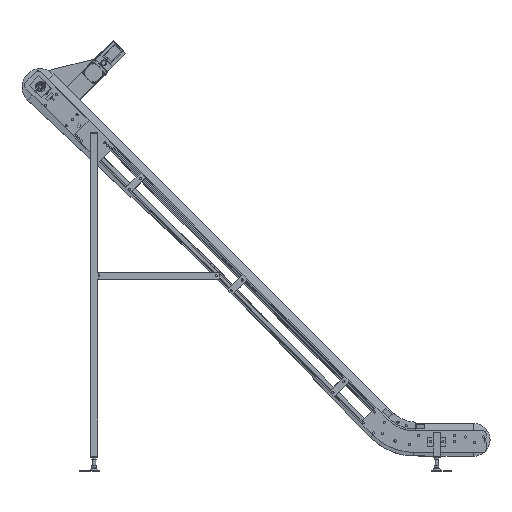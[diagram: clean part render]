
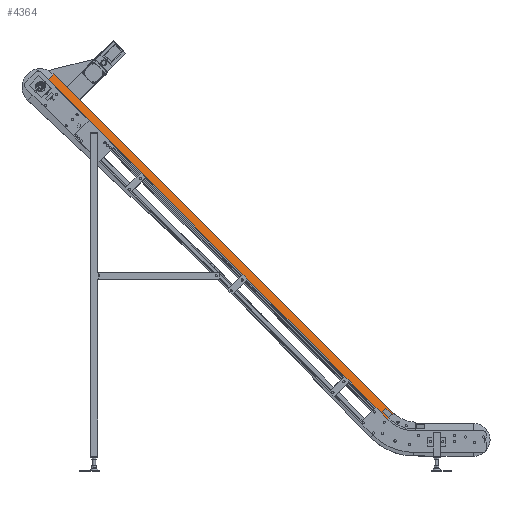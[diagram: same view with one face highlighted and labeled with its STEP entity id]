
A CAD part, top view. The second image highlights one B-rep face of the part: STEP entity #4364.
In plain terms, the highlighted planar face has unit normal (0.13, 0.13, 0.983).
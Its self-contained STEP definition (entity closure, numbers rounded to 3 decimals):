
#4364=ADVANCED_FACE('',(#26848),#26847,.F.);
#26847=PLANE('',#47052);
#26848=FACE_OUTER_BOUND('',#47053,.T.);
#47049=CARTESIAN_POINT('',(2038.698,-1923.275,98.604));
#47050=DIRECTION('',(-0.13,-0.13,-0.983));
#47051=DIRECTION('',(-0.991,0.,0.131));
#47052=AXIS2_PLACEMENT_3D('',#47049,#47050,#47051);
#47053=EDGE_LOOP('',(#61415,#61416,#61417,#61418));
#61415=ORIENTED_EDGE('',*,*,#70242,.T.);
#61416=ORIENTED_EDGE('',*,*,#70130,.F.);
#61417=ORIENTED_EDGE('',*,*,#70243,.F.);
#61418=ORIENTED_EDGE('',*,*,#70237,.T.);
#70130=EDGE_CURVE('',#106416,#106388,#106417,.T.);
#70237=EDGE_CURVE('',#107120,#107121,#107122,.T.);
#70242=EDGE_CURVE('',#107121,#106388,#107153,.T.);
#70243=EDGE_CURVE('',#107120,#106416,#107159,.T.);
#106388=VERTEX_POINT('',#138695);
#106416=VERTEX_POINT('',#138713);
#106417=LINE('',#138714,#138715);
#107120=VERTEX_POINT('',#139119);
#107121=VERTEX_POINT('',#139120);
#107122=LINE('',#139121,#139122);
#107153=LINE('',#139138,#139139);
#107159=LINE('',#139141,#139142);
#138695=CARTESIAN_POINT('',(103.534,-16.772,102.442));
#138713=CARTESIAN_POINT('',(1999.838,-1913.361,102.442));
#138714=CARTESIAN_POINT('',(1999.838,-1913.361,102.442));
#138715=VECTOR('',#138716,2681.98);
#138716=DIRECTION('',(-0.707,0.707,0.));
#139119=CARTESIAN_POINT('',(2028.125,-1885.078,94.942));
#139120=CARTESIAN_POINT('',(131.821,11.51,94.942));
#139121=CARTESIAN_POINT('',(2028.125,-1885.078,94.942));
#139122=VECTOR('',#139123,2681.98);
#139123=DIRECTION('',(-0.707,0.707,0.));
#139138=CARTESIAN_POINT('',(131.821,11.51,94.942));
#139139=VECTOR('',#139140,40.697);
#139140=DIRECTION('',(-0.695,-0.695,0.184));
#139141=CARTESIAN_POINT('',(2028.125,-1885.078,94.942));
#139142=VECTOR('',#139143,40.697);
#139143=DIRECTION('',(-0.695,-0.695,0.184));
